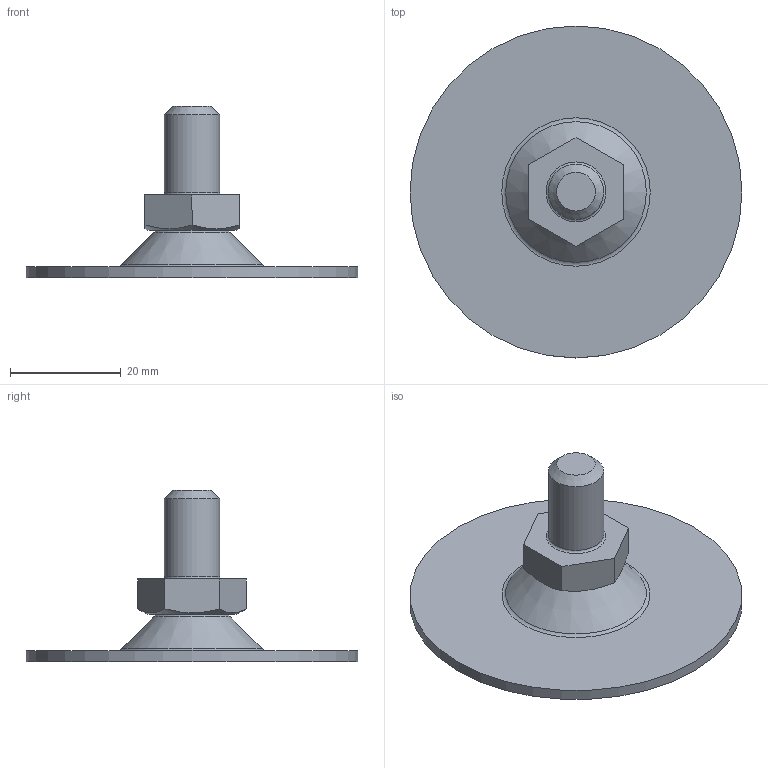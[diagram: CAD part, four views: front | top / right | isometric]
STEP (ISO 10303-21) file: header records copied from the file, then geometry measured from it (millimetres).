
FILE_DESCRIPTION(('STEP AP203'), '1');
FILE_NAME('A00050.1061016', '', ('UNSPECIFIED'), ('UNSPECIFIED'), 'C3D Converter', 'C3D Toolkit', '');
FILE_SCHEMA(('CONFIG_CONTROL_DESIGN'));
Length unit declared in the file: millimetre
Products named in the file (4): A00050.1061016; A00050.1160
Assembly tree (3 placements, depth 2):
  A00050.1061016
    A00050.1160
    (unnamed)
    (unnamed)
Bounding box: 60 x 60 x 30.93 mm (x, y, z)
Volume: 8751.6 mm3; surface area: 8089.6 mm2
Topology: 3 solids, 3 shells, 58 faces, 130 edges, 82 vertices
Faces by surface type: plane 28, torus 8, bspline 8, cone 7, cylinder 6, sphere 1
Full cylindrical faces by diameter (mm): 3.3 x1, 4 x1, 4.5 x1, 8 x1, 10 x1, 60 x1
Entity records: 2171 total; most frequent: CARTESIAN_POINT 784, DIRECTION 242, ORIENTED_EDGE 214, EDGE_CURVE 107, AXIS2_PLACEMENT_3D 95, EDGE_LOOP 86, VERTEX_POINT 81, ADVANCED_FACE 58
